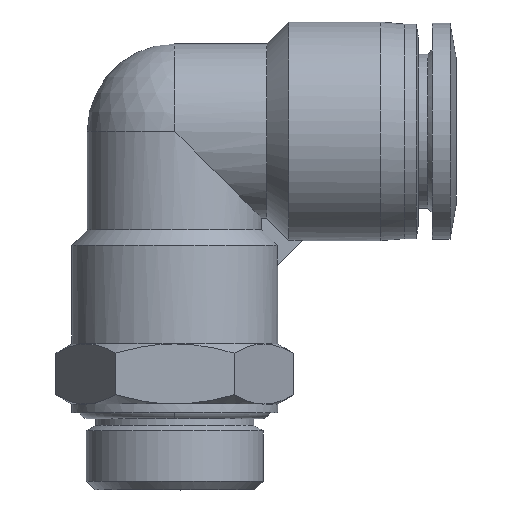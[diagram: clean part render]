
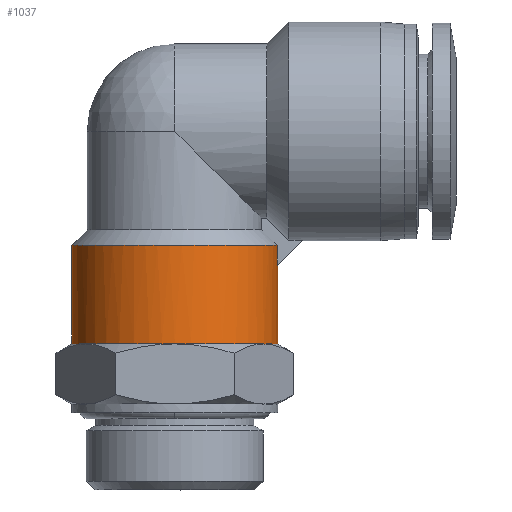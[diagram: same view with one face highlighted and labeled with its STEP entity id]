
A CAD part, top view. The second image highlights one B-rep face of the part: STEP entity #1037.
In plain terms, the highlighted cylindrical face has radius 12 mm (diameter 24 mm), a partial arc.
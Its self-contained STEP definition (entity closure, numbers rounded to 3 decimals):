
#10 = CARTESIAN_POINT ( 'NONE',  ( 11.935, 9.185, 1.25 ) ) ;
#93 = ORIENTED_EDGE ( 'NONE', *, *, #2940, .T. ) ;
#110 = VERTEX_POINT ( 'NONE', #2005 ) ;
#113 = B_SPLINE_CURVE_WITH_KNOTS ( 'NONE', 3,
 ( #3050, #3806, #1437, #1414 ),
 .UNSPECIFIED., .F., .F.,
 ( 4, 4 ),
 ( 0., 1. ),
 .UNSPECIFIED. ) ;
#127 = VERTEX_POINT ( 'NONE', #3638 ) ;
#191 = CARTESIAN_POINT ( 'NONE',  ( 6.907, 0., 9.869 ) ) ;
#213 = CARTESIAN_POINT ( 'NONE',  ( 10.392, 0., 6. ) ) ;
#275 = CARTESIAN_POINT ( 'NONE',  ( 12., 9.25, 0.417 ) ) ;
#287 = LINE ( 'NONE', #2573, #557 ) ;
#327 = CARTESIAN_POINT ( 'NONE',  ( 12., 0., 0. ) ) ;
#388 = ORIENTED_EDGE ( 'NONE', *, *, #3794, .T. ) ;
#429 = VERTEX_POINT ( 'NONE', #599 ) ;
#503 = CARTESIAN_POINT ( 'NONE',  ( -12., 11.5, 1.519 ) ) ;
#557 = VECTOR ( 'NONE', #4223, 1000. ) ;
#599 = CARTESIAN_POINT ( 'NONE',  ( 12., 0., 0. ) ) ;
#707 = CARTESIAN_POINT ( 'NONE',  ( 10.392, 0., 6. ) ) ;
#717 = CARTESIAN_POINT ( 'NONE',  ( -2.094, 0., 11.862 ) ) ;
#745 = CARTESIAN_POINT ( 'NONE',  ( -10.392, 0., 6. ) ) ;
#780 = B_SPLINE_CURVE_WITH_KNOTS ( 'NONE', 3,
 ( #3012, #1742, #4044, #1108, #2782, #191, #3501, #2104, #2757, #213 ),
 .UNSPECIFIED., .F., .F.,
 ( 4, 2, 2, 2, 4 ),
 ( 0., 0.25, 0.5, 0.75, 1. ),
 .UNSPECIFIED. ) ;
#784 = CARTESIAN_POINT ( 'NONE',  ( -3.643, 11.5, 11.534 ) ) ;
#821 = CARTESIAN_POINT ( 'NONE',  ( -10.392, 0., 6. ) ) ;
#828 = CARTESIAN_POINT ( 'NONE',  ( 2.422, 11.5, 11.851 ) ) ;
#832 = AXIS2_PLACEMENT_3D ( 'NONE', #4129, #1485, #2777 ) ;
#854 = CARTESIAN_POINT ( 'NONE',  ( 9.915, 11.5, 6.928 ) ) ;
#955 = EDGE_CURVE ( 'NONE', #3715, #429, #3994, .T. ) ;
#1029 = CARTESIAN_POINT ( 'NONE',  ( 11.32, 0., 4.117 ) ) ;
#1037 = ADVANCED_FACE ( 'NONE', ( #3729 ), #3445, .T. ) ;
#1063 = CARTESIAN_POINT ( 'NONE',  ( -12., 0., 0. ) ) ;
#1108 = CARTESIAN_POINT ( 'NONE',  ( 4.117, 0., 11.32 ) ) ;
#1120 = CARTESIAN_POINT ( 'NONE',  ( 0., 0., 12. ) ) ;
#1133 = CARTESIAN_POINT ( 'NONE',  ( 0., 0., 12. ) ) ;
#1146 = CARTESIAN_POINT ( 'NONE',  ( -10.583, 11.5, 5.858 ) ) ;
#1165 = CARTESIAN_POINT ( 'NONE',  ( -6.402, 11.5, 10.263 ) ) ;
#1223 = CARTESIAN_POINT ( 'NONE',  ( 10.392, 0., 6. ) ) ;
#1265 = ORIENTED_EDGE ( 'NONE', *, *, #1393, .T. ) ;
#1328 = B_SPLINE_CURVE_WITH_KNOTS ( 'NONE', 3,
 ( #10, #1623, #275, #3894 ),
 .UNSPECIFIED., .F., .F.,
 ( 4, 4 ),
 ( 0., 0.5 ),
 .UNSPECIFIED. ) ;
#1333 = CARTESIAN_POINT ( 'NONE',  ( -11.32, 0., 4.117 ) ) ;
#1361 = VECTOR ( 'NONE', #3034, 1000. ) ;
#1393 = EDGE_CURVE ( 'NONE', #127, #3708, #113, .T. ) ;
#1414 = CARTESIAN_POINT ( 'NONE',  ( 11.935, 11.5, 1.25 ) ) ;
#1437 = CARTESIAN_POINT ( 'NONE',  ( 11.935, 10.728, 1.25 ) ) ;
#1485 = DIRECTION ( 'NONE',  ( 0., -1., 0. ) ) ;
#1607 = ORIENTED_EDGE ( 'NONE', *, *, #2229, .F. ) ;
#1623 = CARTESIAN_POINT ( 'NONE',  ( 11.978, 9.228, 0.833 ) ) ;
#1626 = CARTESIAN_POINT ( 'NONE',  ( 12., 9.25, 0. ) ) ;
#1742 = CARTESIAN_POINT ( 'NONE',  ( 1.047, 0., 12. ) ) ;
#1775 = CARTESIAN_POINT ( 'NONE',  ( 11.328, 11.5, 4.24 ) ) ;
#1868 = EDGE_CURVE ( 'NONE', #3574, #2505, #780, .T. ) ;
#1936 = ORIENTED_EDGE ( 'NONE', *, *, #3397, .T. ) ;
#1959 = CARTESIAN_POINT ( 'NONE',  ( 12., 0., 1.047 ) ) ;
#1987 = EDGE_CURVE ( 'NONE', #127, #3715, #1328, .T. ) ;
#1990 = CARTESIAN_POINT ( 'NONE',  ( -9.226, 0., 7.745 ) ) ;
#2005 = CARTESIAN_POINT ( 'NONE',  ( -12., 0., 0. ) ) ;
#2021 = ORIENTED_EDGE ( 'NONE', *, *, #3158, .T. ) ;
#2097 = CARTESIAN_POINT ( 'NONE',  ( -7.658, 11.5, 9.363 ) ) ;
#2104 = CARTESIAN_POINT ( 'NONE',  ( 9.226, 0., 7.745 ) ) ;
#2115 = CARTESIAN_POINT ( 'NONE',  ( -1.047, 0., 12. ) ) ;
#2119 = ORIENTED_EDGE ( 'NONE', *, *, #1868, .T. ) ;
#2229 = EDGE_CURVE ( 'NONE', #3128, #3708, #2286, .T. ) ;
#2286 = B_SPLINE_CURVE_WITH_KNOTS ( 'NONE', 3,
 ( #2823, #503, #3073, #1146, #2451, #2097, #1165, #784, #4151, #3422, #828, #4132, #4062, #3400, #854, #1775, #3768, #2429 ),
 .UNSPECIFIED., .F., .F.,
 ( 4, 2, 2, 2, 2, 2, 2, 2, 4 ),
 ( 0.5, 0.563, 0.625, 0.688, 0.75, 0.813, 0.875, 0.938, 1. ),
 .UNSPECIFIED. ) ;
#2315 = CARTESIAN_POINT ( 'NONE',  ( -5.093, 0., 10.916 ) ) ;
#2317 = CARTESIAN_POINT ( 'NONE',  ( -11.862, 0., 2.094 ) ) ;
#2330 = CARTESIAN_POINT ( 'NONE',  ( 10.916, 0., 5.093 ) ) ;
#2355 = B_SPLINE_CURVE_WITH_KNOTS ( 'NONE', 3,
 ( #707, #2330, #1029, #2592, #1959, #327 ),
 .UNSPECIFIED., .F., .F.,
 ( 4, 2, 4 ),
 ( 0., 0.25, 0.5 ),
 .UNSPECIFIED. ) ;
#2429 = CARTESIAN_POINT ( 'NONE',  ( 11.935, 11.5, 1.25 ) ) ;
#2451 = CARTESIAN_POINT ( 'NONE',  ( -9.749, 11.5, 7.16 ) ) ;
#2505 = VERTEX_POINT ( 'NONE', #1223 ) ;
#2573 = CARTESIAN_POINT ( 'NONE',  ( -12., 5.75, 0. ) ) ;
#2592 = CARTESIAN_POINT ( 'NONE',  ( 11.862, 0., 2.094 ) ) ;
#2641 = CARTESIAN_POINT ( 'NONE',  ( -10.916, 0., 5.093 ) ) ;
#2661 = VERTEX_POINT ( 'NONE', #745 ) ;
#2757 = CARTESIAN_POINT ( 'NONE',  ( 9.869, 0., 6.907 ) ) ;
#2777 = DIRECTION ( 'NONE',  ( -1., 0., 0. ) ) ;
#2782 = CARTESIAN_POINT ( 'NONE',  ( 5.093, 0., 10.916 ) ) ;
#2823 = CARTESIAN_POINT ( 'NONE',  ( -12., 11.5, 0. ) ) ;
#2940 = EDGE_CURVE ( 'NONE', #2661, #3574, #3790, .T. ) ;
#3007 = CARTESIAN_POINT ( 'NONE',  ( -7.745, 0., 9.226 ) ) ;
#3012 = CARTESIAN_POINT ( 'NONE',  ( 0., 0., 12. ) ) ;
#3028 = ORIENTED_EDGE ( 'NONE', *, *, #1987, .F. ) ;
#3034 = DIRECTION ( 'NONE',  ( 0., -1., 0. ) ) ;
#3050 = CARTESIAN_POINT ( 'NONE',  ( 11.935, 9.185, 1.25 ) ) ;
#3073 = CARTESIAN_POINT ( 'NONE',  ( -11.708, 11.5, 3.037 ) ) ;
#3093 = CARTESIAN_POINT ( 'NONE',  ( -6.907, 0., 9.869 ) ) ;
#3128 = VERTEX_POINT ( 'NONE', #3615 ) ;
#3158 = EDGE_CURVE ( 'NONE', #2505, #429, #2355, .T. ) ;
#3291 = CARTESIAN_POINT ( 'NONE',  ( -9.869, 0., 6.907 ) ) ;
#3312 = CARTESIAN_POINT ( 'NONE',  ( -4.117, 0., 11.32 ) ) ;
#3397 = EDGE_CURVE ( 'NONE', #3128, #110, #287, .T. ) ;
#3400 = CARTESIAN_POINT ( 'NONE',  ( 8.95, 11.5, 8.136 ) ) ;
#3422 = CARTESIAN_POINT ( 'NONE',  ( 0.891, 11.5, 12.063 ) ) ;
#3445 = CYLINDRICAL_SURFACE ( 'NONE', #832, 12. ) ;
#3501 = CARTESIAN_POINT ( 'NONE',  ( 7.745, 0., 9.226 ) ) ;
#3548 = CARTESIAN_POINT ( 'NONE',  ( 11.935, 11.5, 1.25 ) ) ;
#3574 = VERTEX_POINT ( 'NONE', #1133 ) ;
#3615 = CARTESIAN_POINT ( 'NONE',  ( -12., 11.5, 0. ) ) ;
#3638 = CARTESIAN_POINT ( 'NONE',  ( 11.935, 9.185, 1.25 ) ) ;
#3663 = CARTESIAN_POINT ( 'NONE',  ( 12., 5.75, 0. ) ) ;
#3668 = CARTESIAN_POINT ( 'NONE',  ( -12., 0., 1.047 ) ) ;
#3701 = EDGE_LOOP ( 'NONE', ( #3858, #3028, #1265, #1607, #1936, #388, #93, #2119, #2021 ) ) ;
#3708 = VERTEX_POINT ( 'NONE', #3548 ) ;
#3715 = VERTEX_POINT ( 'NONE', #1626 ) ;
#3729 = FACE_OUTER_BOUND ( 'NONE', #3701, .T. ) ;
#3768 = CARTESIAN_POINT ( 'NONE',  ( 11.777, 11.5, 2.76 ) ) ;
#3790 = B_SPLINE_CURVE_WITH_KNOTS ( 'NONE', 3,
 ( #821, #3291, #1990, #3007, #3093, #2315, #3312, #717, #2115, #1120 ),
 .UNSPECIFIED., .F., .F.,
 ( 4, 2, 2, 2, 4 ),
 ( 0., 0.25, 0.5, 0.75, 1. ),
 .UNSPECIFIED. ) ;
#3794 = EDGE_CURVE ( 'NONE', #110, #2661, #3897, .T. ) ;
#3806 = CARTESIAN_POINT ( 'NONE',  ( 11.935, 9.956, 1.25 ) ) ;
#3858 = ORIENTED_EDGE ( 'NONE', *, *, #955, .F. ) ;
#3894 = CARTESIAN_POINT ( 'NONE',  ( 12., 9.25, 0. ) ) ;
#3897 = B_SPLINE_CURVE_WITH_KNOTS ( 'NONE', 3,
 ( #1063, #3668, #2317, #1333, #2641, #4041 ),
 .UNSPECIFIED., .F., .F.,
 ( 4, 2, 4 ),
 ( 0.5, 0.75, 1. ),
 .UNSPECIFIED. ) ;
#3994 = LINE ( 'NONE', #3663, #1361 ) ;
#4041 = CARTESIAN_POINT ( 'NONE',  ( -10.392, 0., 6. ) ) ;
#4044 = CARTESIAN_POINT ( 'NONE',  ( 2.094, 0., 11.862 ) ) ;
#4062 = CARTESIAN_POINT ( 'NONE',  ( 6.641, 11.5, 10.109 ) ) ;
#4129 = CARTESIAN_POINT ( 'NONE',  ( 0., 5.75, 0. ) ) ;
#4132 = CARTESIAN_POINT ( 'NONE',  ( 5.298, 11.5, 10.874 ) ) ;
#4151 = CARTESIAN_POINT ( 'NONE',  ( -2.142, 11.5, 11.904 ) ) ;
#4223 = DIRECTION ( 'NONE',  ( 0., -1., 0. ) ) ;
